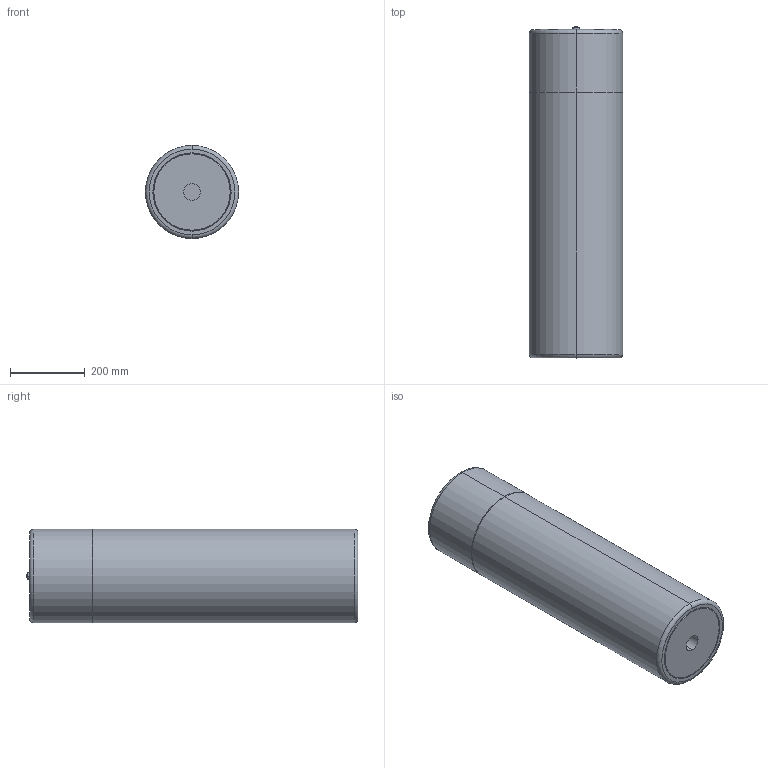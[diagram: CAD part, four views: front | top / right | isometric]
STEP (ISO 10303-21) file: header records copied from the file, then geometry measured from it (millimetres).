
FILE_DESCRIPTION (( 'STEP AP214' ), '1' );
FILE_NAME ('U200A01X1-PC.STEP', '2025-04-10T10:37:34', ( '' ), ( '' ), 'SwSTEP 2.0', 'SolidWorks 2024', '' );
FILE_SCHEMA (( 'AUTOMOTIVE_DESIGN' ));
Length unit declared in the file: millimetre
Products named in the file (1): U200A01X1-PC
Bounding box: 250 x 890.48 x 250 mm (x, y, z)
Volume: 43090314 mm3; surface area: 800655.7 mm2
Topology: 3 solids, 3 shells, 114 faces, 246 edges, 142 vertices
Faces by surface type: cylinder 38, plane 32, cone 30, torus 14
Entity records: 4377 total; most frequent: CARTESIAN_POINT 593, DIRECTION 588, ORIENTED_EDGE 484, AXIS2_PLACEMENT_3D 245, EDGE_CURVE 242, VERTEX_POINT 142, CIRCLE 130, EDGE_LOOP 130
